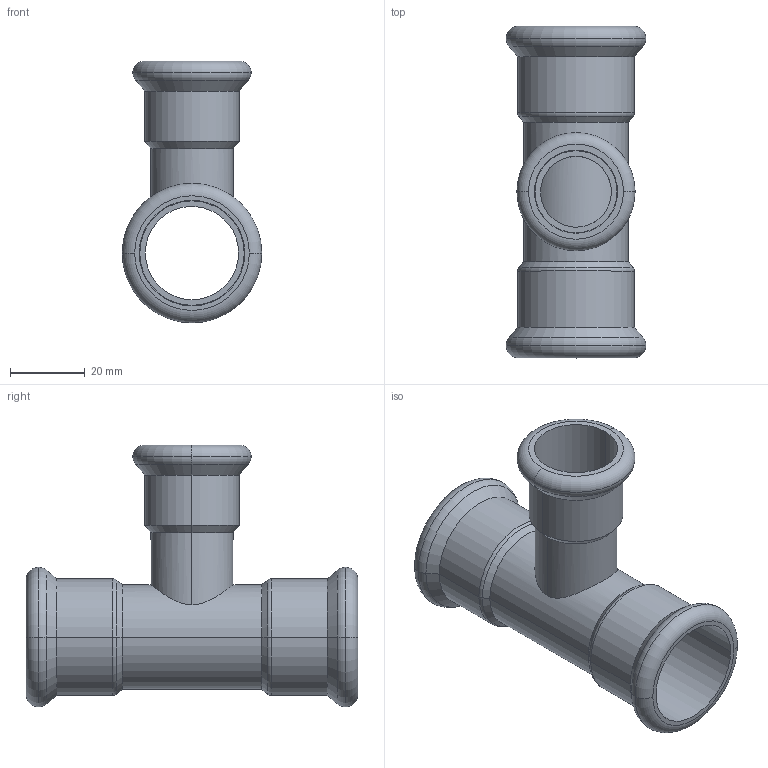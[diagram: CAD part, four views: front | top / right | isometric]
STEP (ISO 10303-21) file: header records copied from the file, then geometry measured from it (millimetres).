
FILE_DESCRIPTION(('CoCreate Modeling STEP Export'),'2;1');
FILE_NAME('C1415 28x22x28.stp','2014-11-11T17:10:35',(''),(''),'CoCreate Modeling STEP processor for AP214 (Solid Model)','CoCreate Modeling 17.00A 17-Jun-2010 (C) Parametric Technology GmbH','');
FILE_SCHEMA(('AUTOMOTIVE_DESIGN { 1 0 10303 214 1 1 1 1 }'));
Length unit declared in the file: millimetre
Products named in the file (2): C1415_28x22x28
Assembly tree (1 placements, depth 2):
  C1415_28x22x28
    C1415_28x22x28
Bounding box: 37.45 x 89 x 70.22 mm (x, y, z)
Volume: 21856.5 mm3; surface area: 23572.8 mm2
Topology: 1 solids, 1 shells, 64 faces, 131 edges, 77 vertices
Faces by surface type: cylinder 27, torus 16, cone 12, plane 9
Entity records: 2538 total; most frequent: CARTESIAN_POINT 1343, ORIENTED_EDGE 262, DIRECTION 212, EDGE_CURVE 131, AXIS2_PLACEMENT_3D 87, VERTEX_POINT 77, EDGE_LOOP 74, FACE_OUTER_BOUND 64
